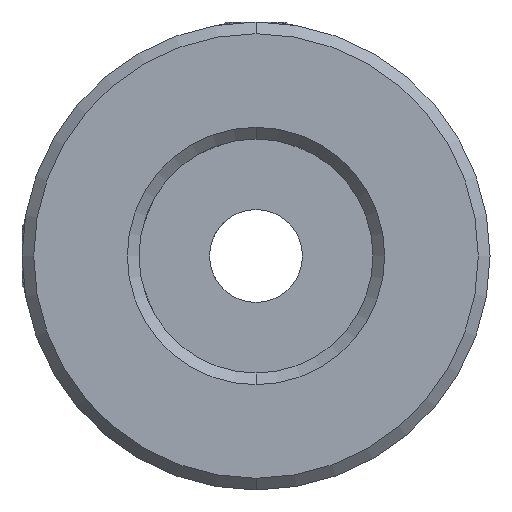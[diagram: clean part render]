
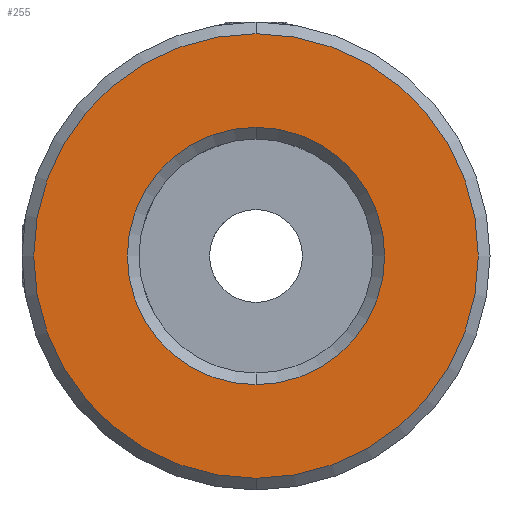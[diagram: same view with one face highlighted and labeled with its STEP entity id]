
A CAD part, front view. The second image highlights one B-rep face of the part: STEP entity #255.
In plain terms, the highlighted planar face has unit normal (0, -1, 0).
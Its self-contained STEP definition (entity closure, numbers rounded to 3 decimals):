
#196 = CARTESIAN_POINT ( 'NONE',  ( -10.188, -0.277, 0.046 ) ) ;
#255 = ADVANCED_FACE ( 'NONE', ( #2396, #2996 ), #2089, .F. ) ;
#259 = CARTESIAN_POINT ( 'NONE',  ( -10.188, -0.277, 8.846 ) ) ;
#299 = VERTEX_POINT ( 'NONE', #3703 ) ;
#303 = EDGE_CURVE ( 'NONE', #2997, #1386, #2180, .T. ) ;
#394 = CARTESIAN_POINT ( 'NONE',  ( -10.188, -0.277, 0.046 ) ) ;
#530 = DIRECTION ( 'NONE',  ( 0., -1., 0. ) ) ;
#814 = CARTESIAN_POINT ( 'NONE',  ( -10.188, -0.277, 0.046 ) ) ;
#819 = CARTESIAN_POINT ( 'NONE',  ( -10.188, -0.277, 0.046 ) ) ;
#1337 = ORIENTED_EDGE ( 'NONE', *, *, #3651, .T. ) ;
#1349 = AXIS2_PLACEMENT_3D ( 'NONE', #814, #3051, #1684 ) ;
#1386 = VERTEX_POINT ( 'NONE', #3077 ) ;
#1453 = VERTEX_POINT ( 'NONE', #3433 ) ;
#1554 = EDGE_LOOP ( 'NONE', ( #2312, #3403 ) ) ;
#1684 = DIRECTION ( 'NONE',  ( 0., 0., 1. ) ) ;
#1686 = DIRECTION ( 'NONE',  ( 0., 0., 1. ) ) ;
#1795 = EDGE_CURVE ( 'NONE', #299, #1453, #3619, .T. ) ;
#1899 = CIRCLE ( 'NONE', #2265, 15.2 ) ;
#2073 = AXIS2_PLACEMENT_3D ( 'NONE', #394, #3204, #2629 ) ;
#2089 = PLANE ( 'NONE',  #2073 ) ;
#2180 = CIRCLE ( 'NONE', #3510, 8.8 ) ;
#2251 = DIRECTION ( 'NONE',  ( 0., 0., 1. ) ) ;
#2265 = AXIS2_PLACEMENT_3D ( 'NONE', #196, #3063, #3102 ) ;
#2312 = ORIENTED_EDGE ( 'NONE', *, *, #3242, .T. ) ;
#2396 = FACE_OUTER_BOUND ( 'NONE', #3263, .T. ) ;
#2629 = DIRECTION ( 'NONE',  ( 0., 0., 1. ) ) ;
#2832 = AXIS2_PLACEMENT_3D ( 'NONE', #819, #530, #1686 ) ;
#2996 = FACE_BOUND ( 'NONE', #1554, .T. ) ;
#2997 = VERTEX_POINT ( 'NONE', #259 ) ;
#3051 = DIRECTION ( 'NONE',  ( 0., 1., 0. ) ) ;
#3063 = DIRECTION ( 'NONE',  ( 0., -1., 0. ) ) ;
#3077 = CARTESIAN_POINT ( 'NONE',  ( -10.188, -0.277, -8.754 ) ) ;
#3102 = DIRECTION ( 'NONE',  ( 0., 0., 1. ) ) ;
#3103 = CIRCLE ( 'NONE', #1349, 8.8 ) ;
#3120 = CARTESIAN_POINT ( 'NONE',  ( -10.188, -0.277, 0.046 ) ) ;
#3204 = DIRECTION ( 'NONE',  ( 0., 1., 0. ) ) ;
#3242 = EDGE_CURVE ( 'NONE', #1386, #2997, #3103, .T. ) ;
#3263 = EDGE_LOOP ( 'NONE', ( #1337, #3656 ) ) ;
#3403 = ORIENTED_EDGE ( 'NONE', *, *, #303, .T. ) ;
#3417 = DIRECTION ( 'NONE',  ( 0., 1., 0. ) ) ;
#3433 = CARTESIAN_POINT ( 'NONE',  ( -10.188, -0.277, 15.246 ) ) ;
#3510 = AXIS2_PLACEMENT_3D ( 'NONE', #3120, #3417, #2251 ) ;
#3619 = CIRCLE ( 'NONE', #2832, 15.2 ) ;
#3651 = EDGE_CURVE ( 'NONE', #1453, #299, #1899, .T. ) ;
#3656 = ORIENTED_EDGE ( 'NONE', *, *, #1795, .T. ) ;
#3703 = CARTESIAN_POINT ( 'NONE',  ( -10.188, -0.277, -15.154 ) ) ;
